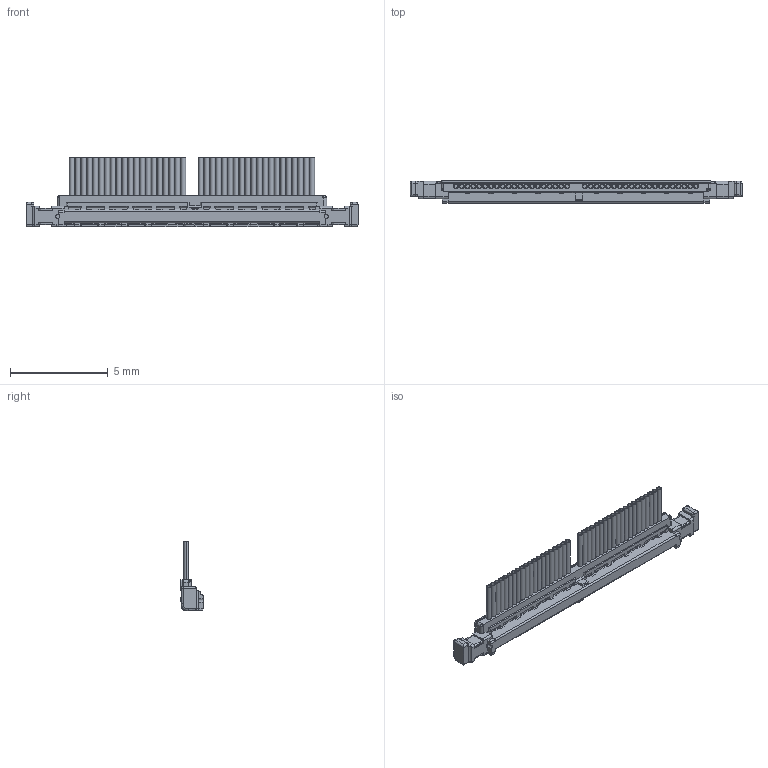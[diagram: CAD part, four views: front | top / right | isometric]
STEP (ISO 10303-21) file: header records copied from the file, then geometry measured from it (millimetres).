
FILE_DESCRIPTION (( 'STEP AP203' ), '1' );
FILE_NAME ('20496-040xxxC PLUG CABLE ASS''Y STEP R1 ALL.STEP', '2012-05-29T11:16:42', ( 'I-PEX' ), ( 'I-PEX' ), 'SwSTEP 2.0', 'SolidWorks 2011', '' );
FILE_SCHEMA (( 'CONFIG_CONTROL_DESIGN' ));
Products named in the file (1): 20496-040xxxC PLUG CABLE ASS''Y STEP R1 ALL
Bounding box: 17 x 1.14 x 3.56 mm (x, y, z)
Volume: 20.8 mm3; surface area: 235.7 mm2
Topology: 1 solids, 5 shells, 1380 faces, 3621 edges, 2361 vertices
Faces by surface type: plane 1020, cylinder 336, cone 10, sphere 6, torus 6, bspline 2
Entity records: 42495 total; most frequent: CARTESIAN_POINT 7835, ORIENTED_EDGE 7226, DIRECTION 7059, EDGE_CURVE 3613, LINE 2819, VECTOR 2819, VERTEX_POINT 2361, AXIS2_PLACEMENT_3D 2120
